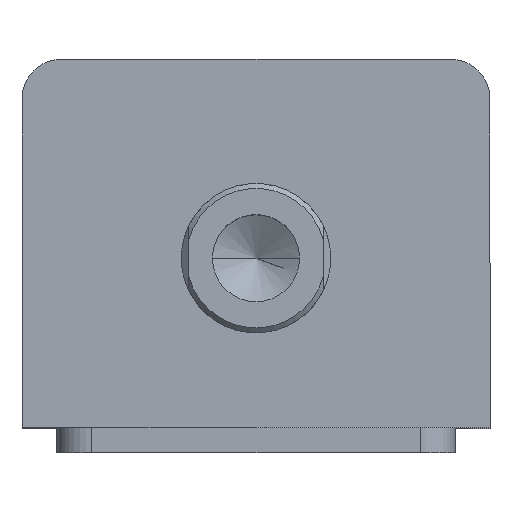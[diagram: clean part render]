
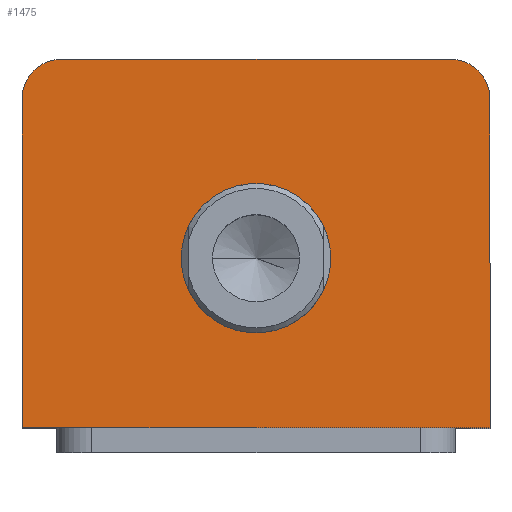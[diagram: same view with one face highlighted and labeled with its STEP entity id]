
A CAD part, top view. The second image highlights one B-rep face of the part: STEP entity #1475.
In plain terms, the highlighted planar face has unit normal (0, 0, 1).
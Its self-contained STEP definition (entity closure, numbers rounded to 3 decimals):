
#29 = CARTESIAN_POINT ( 'NONE',  ( 0., 0., 115. ) ) ;
#30 = PLANE ( 'NONE',  #1218 ) ;
#35 = DIRECTION ( 'NONE',  ( 0., 0., 1. ) ) ;
#36 = DIRECTION ( 'NONE',  ( 1., 0., 0. ) ) ;
#252 = CARTESIAN_POINT ( 'NONE',  ( 39., 37., 115. ) ) ;
#256 = CARTESIAN_POINT ( 'NONE',  ( -39., 37., 115. ) ) ;
#264 = CARTESIAN_POINT ( 'NONE',  ( -47., -37., 115. ) ) ;
#315 = CARTESIAN_POINT ( 'NONE',  ( 47., -37., 115. ) ) ;
#318 = CARTESIAN_POINT ( 'NONE',  ( 47., 29., 115. ) ) ;
#338 = CARTESIAN_POINT ( 'NONE',  ( -15., -3., 115. ) ) ;
#339 = CARTESIAN_POINT ( 'NONE',  ( 15., -3., 115. ) ) ;
#380 = CARTESIAN_POINT ( 'NONE',  ( -47., 29., 115. ) ) ;
#543 = CIRCLE ( 'NONE', #1195, 15. ) ;
#583 = FACE_BOUND ( 'NONE', #1906, .T. ) ;
#588 = FACE_OUTER_BOUND ( 'NONE', #1879, .T. ) ;
#1165 = AXIS2_PLACEMENT_3D ( 'NONE', #2321, #2320, #2318 ) ;
#1173 = AXIS2_PLACEMENT_3D ( 'NONE', #2404, #2403, #2402 ) ;
#1178 = AXIS2_PLACEMENT_3D ( 'NONE', #2335, #2334, #2333 ) ;
#1195 = AXIS2_PLACEMENT_3D ( 'NONE', #1838, #1935, #1924 ) ;
#1218 = AXIS2_PLACEMENT_3D ( 'NONE', #29, #35, #36 ) ;
#1302 = CIRCLE ( 'NONE', #1178, 15. ) ;
#1334 = EDGE_CURVE ( 'NONE', #1696, #1689, #2449, .T. ) ;
#1358 = EDGE_CURVE ( 'NONE', #1557, #1551, #2283, .T. ) ;
#1371 = EDGE_CURVE ( 'NONE', #1689, #1557, #2267, .T. ) ;
#1381 = EDGE_CURVE ( 'NONE', #1551, #2970, #1953, .T. ) ;
#1387 = EDGE_CURVE ( 'NONE', #1559, #1696, #1945, .T. ) ;
#1395 = EDGE_CURVE ( 'NONE', #2970, #1559, #2245, .T. ) ;
#1404 = EDGE_CURVE ( 'NONE', #2599, #2598, #1302, .T. ) ;
#1442 = EDGE_CURVE ( 'NONE', #2598, #2599, #543, .T. ) ;
#1475 = ADVANCED_FACE ( 'NONE', ( #583, #588 ), #30, .T. ) ;
#1551 = VERTEX_POINT ( 'NONE', #256 ) ;
#1557 = VERTEX_POINT ( 'NONE', #252 ) ;
#1559 = VERTEX_POINT ( 'NONE', #264 ) ;
#1689 = VERTEX_POINT ( 'NONE', #318 ) ;
#1696 = VERTEX_POINT ( 'NONE', #315 ) ;
#1783 = ORIENTED_EDGE ( 'NONE', *, *, #1371, .T. ) ;
#1784 = ORIENTED_EDGE ( 'NONE', *, *, #1334, .T. ) ;
#1785 = ORIENTED_EDGE ( 'NONE', *, *, #1387, .T. ) ;
#1787 = ORIENTED_EDGE ( 'NONE', *, *, #1395, .T. ) ;
#1788 = ORIENTED_EDGE ( 'NONE', *, *, #1381, .T. ) ;
#1790 = ORIENTED_EDGE ( 'NONE', *, *, #1442, .F. ) ;
#1792 = ORIENTED_EDGE ( 'NONE', *, *, #1358, .T. ) ;
#1795 = ORIENTED_EDGE ( 'NONE', *, *, #1404, .F. ) ;
#1838 = CARTESIAN_POINT ( 'NONE',  ( 0., -3., 115. ) ) ;
#1879 = EDGE_LOOP ( 'NONE', ( #1792, #1788, #1787, #1785, #1784, #1783 ) ) ;
#1906 = EDGE_LOOP ( 'NONE', ( #1795, #1790 ) ) ;
#1924 = DIRECTION ( 'NONE',  ( 1., 0., 0. ) ) ;
#1935 = DIRECTION ( 'NONE',  ( 0., 0., 1. ) ) ;
#1945 = LINE ( 'NONE', #2383, #2260 ) ;
#1953 = CIRCLE ( 'NONE', #1173, 8. ) ;
#2116 = DIRECTION ( 'NONE',  ( -1., 0., 0. ) ) ;
#2117 = CARTESIAN_POINT ( 'NONE',  ( -47., 37., 115. ) ) ;
#2180 = DIRECTION ( 'NONE',  ( 0., 1., 0. ) ) ;
#2182 = CARTESIAN_POINT ( 'NONE',  ( 47., 37., 115. ) ) ;
#2245 = LINE ( 'NONE', #2362, #2674 ) ;
#2260 = VECTOR ( 'NONE', #2382, 1000. ) ;
#2267 = CIRCLE ( 'NONE', #1165, 8. ) ;
#2280 = VECTOR ( 'NONE', #2116, 1000. ) ;
#2283 = LINE ( 'NONE', #2117, #2280 ) ;
#2318 = DIRECTION ( 'NONE',  ( 1., 0., 0. ) ) ;
#2320 = DIRECTION ( 'NONE',  ( 0., 0., 1. ) ) ;
#2321 = CARTESIAN_POINT ( 'NONE',  ( 39., 29., 115. ) ) ;
#2333 = DIRECTION ( 'NONE',  ( 1., 0., 0. ) ) ;
#2334 = DIRECTION ( 'NONE',  ( 0., 0., 1. ) ) ;
#2335 = CARTESIAN_POINT ( 'NONE',  ( 0., -3., 115. ) ) ;
#2360 = DIRECTION ( 'NONE',  ( 0., -1., 0. ) ) ;
#2362 = CARTESIAN_POINT ( 'NONE',  ( -47., 37., 115. ) ) ;
#2382 = DIRECTION ( 'NONE',  ( 1., 0., 0. ) ) ;
#2383 = CARTESIAN_POINT ( 'NONE',  ( -47., -37., 115. ) ) ;
#2402 = DIRECTION ( 'NONE',  ( 1., 0., 0. ) ) ;
#2403 = DIRECTION ( 'NONE',  ( 0., 0., 1. ) ) ;
#2404 = CARTESIAN_POINT ( 'NONE',  ( -39., 29., 115. ) ) ;
#2446 = VECTOR ( 'NONE', #2180, 1000. ) ;
#2449 = LINE ( 'NONE', #2182, #2446 ) ;
#2598 = VERTEX_POINT ( 'NONE', #338 ) ;
#2599 = VERTEX_POINT ( 'NONE', #339 ) ;
#2674 = VECTOR ( 'NONE', #2360, 1000. ) ;
#2970 = VERTEX_POINT ( 'NONE', #380 ) ;
